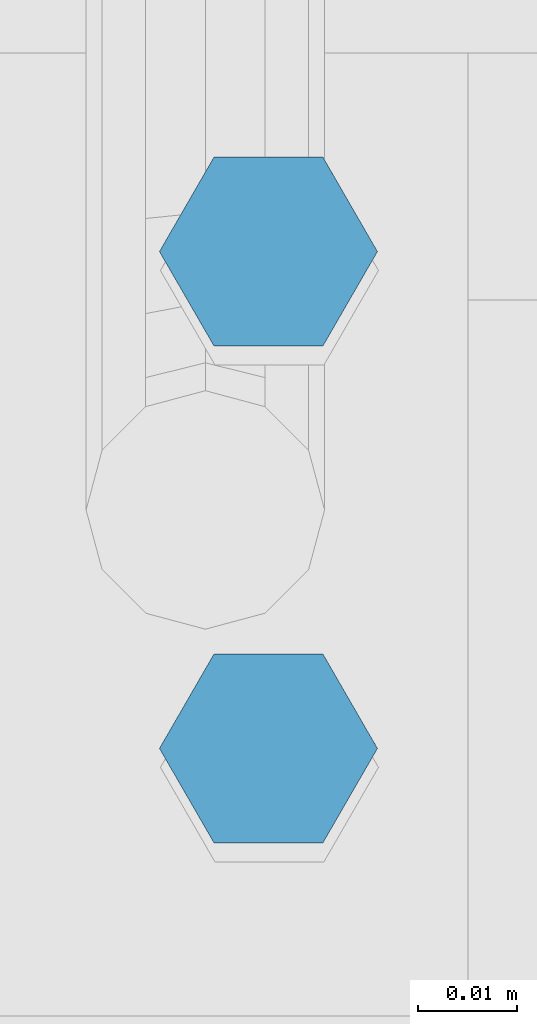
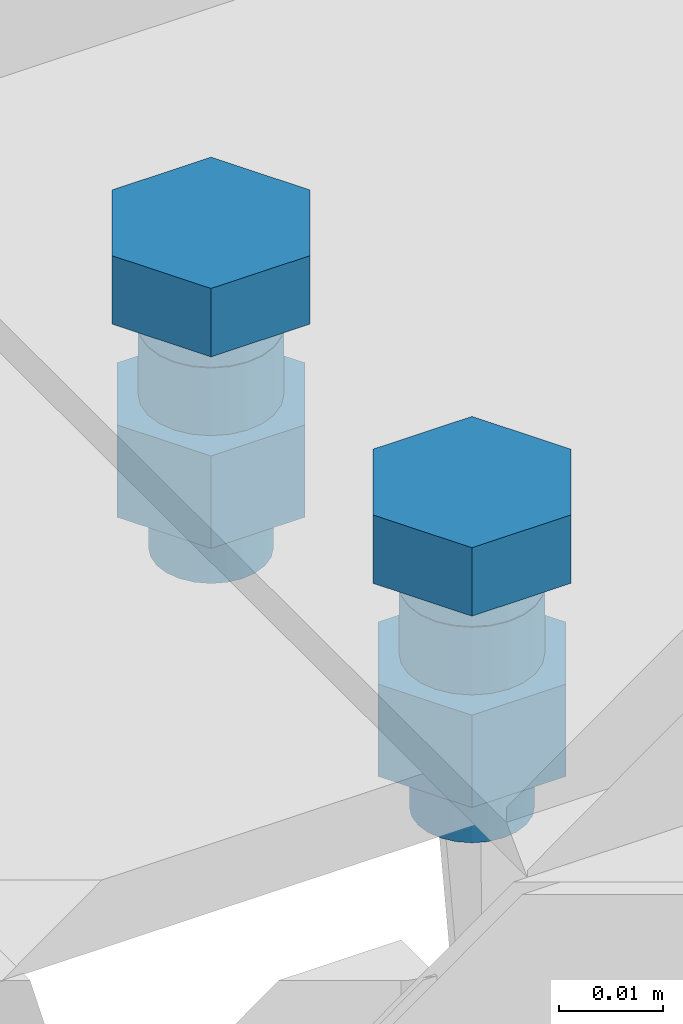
# One storey, part 18 of 21: 1 mechanical fastener.
"""IFC2X3 building model written with IfcOpenShell, lengths in millimetres."""

from ifc_helpers import new_model, si_unit, frame, origin_with_axes, place, context, project, spatial, faceted_brep, element, save


model = new_model("IFC2X3")

# Units and contexts
model_context_1 = context("Model", 3, precision=1e-05, world=origin_with_axes(), identifier="Body")
model_context_2 = context("Model", 3, precision=1e-05, world=origin_with_axes())
ifc_project = project(units=[si_unit("LENGTHUNIT", "METRE", prefix="MILLI"), si_unit("AREAUNIT", "SQUARE_METRE"), si_unit("VOLUMEUNIT", "CUBIC_METRE"), si_unit("MASSUNIT", "GRAM", prefix="KILO"), si_unit("TIMEUNIT", "SECOND"), si_unit("PLANEANGLEUNIT", "RADIAN"), si_unit("SOLIDANGLEUNIT", "STERADIAN"), si_unit("THERMODYNAMICTEMPERATUREUNIT", "DEGREE_CELSIUS"), si_unit("LUMINOUSINTENSITYUNIT", "LUMEN")], contexts=[model_context_1, model_context_2])

# Site, building, storey
site_placement = place(None, origin_with_axes())
site = spatial("IfcSite", under=ifc_project, at=site_placement, Name="Undefined", CompositionType="ELEMENT")
building_placement = place(site_placement, origin_with_axes())
building = spatial("IfcBuilding", under=site, at=building_placement, Name="Undefined", CompositionType="ELEMENT")
storey_placement = place(building_placement, origin_with_axes())
storey = spatial("IfcBuildingStorey", under=building, at=storey_placement, Name="Undefined", CompositionType="ELEMENT")

# Mechanical fastener
mechanical_fastener_placement = place(storey_placement, frame((66.35, -154.9998, 6524.0), z_axis=(6.323831e-15, -1.0, -5.4600005e-05), x_axis=(-1.0, 0.0, 4.8148249e-35)))
element("IfcMechanicalFastener", 1, at=mechanical_fastener_placement, inside=storey, Name="Bolt assembly", NominalDiameter=12.0, NominalLength=30.0, context=model_context_1, shape_type="Brep", body=[
    faceted_brep([(10.969655, -18.000568, 25.0), (5.4848276, -18.000568, 34.5), (-5.4848276, -18.000568, 34.5), (-10.969655, -18.000568, 25.0), (-5.4848276, -18.000568, 15.5), (5.4848276, -18.000568, 15.5), (5.4848276, -10.000568, 15.5), (-5.4848276, -10.000568, 15.5), (-10.969655, -10.000568, 25.0), (-5.4848276, -10.000568, 34.5), (5.4848276, -10.000568, 34.5), (10.969655, -10.000568, 25.0), (6.0, -10.000568, 25.0), (5.795555, -10.000568, 26.552914), (5.1961524, -10.000568, 28.0), (4.2426407, -10.000568, 29.242641), (3.0, -10.000568, 30.196152), (1.5529143, -10.000568, 30.795555), (-6.2180159e-13, -10.000568, 31.0), (-1.5529143, -10.000568, 30.795555), (-3.0, -10.000568, 30.196152), (-4.2426407, -10.000568, 29.242641), (-5.1961524, -10.000568, 28.0), (-5.795555, -10.000568, 26.552914), (-6.0, -10.000568, 25.0), (-5.795555, -10.000568, 23.447086), (-5.1961524, -10.000568, 22.0), (-4.2426407, -10.000568, 20.757359), (-3.0, -10.000568, 19.803848), (-1.5529143, -10.000568, 19.204445), (1.8587434e-12, -10.000568, 19.0), (1.5529143, -10.000568, 19.204445), (3.0, -10.000568, 19.803848), (4.2426407, -10.000568, 20.757359), (5.1961524, -10.000568, 22.0), (5.795555, -10.000568, 23.447086), (5.795555, 19.999432, 23.447086), (5.1961524, 19.999432, 22.0), (4.2426407, 19.999432, 20.757359), (3.0, 19.999432, 19.803848), (1.5529143, 19.999432, 19.204445), (1.8587434e-12, 19.999432, 19.0), (-1.5529143, 19.999432, 19.204445), (-3.0, 19.999432, 19.803848), (-4.2426407, 19.999432, 20.757359), (-5.1961524, 19.999432, 22.0), (-5.795555, 19.999432, 23.447086), (-6.0, 19.999432, 25.0), (-5.795555, 19.999432, 26.552914), (-5.1961524, 19.999432, 28.0), (-4.2426407, 19.999432, 29.242641), (-3.0, 19.999432, 30.196152), (-1.5529143, 19.999432, 30.795555), (-6.2180159e-13, 19.999432, 31.0), (1.5529143, 19.999432, 30.795555), (3.0, 19.999432, 30.196152), (4.2426407, 19.999432, 29.242641), (5.1961524, 19.999432, 28.0), (5.795555, 19.999432, 26.552914), (6.0, 19.999432, 25.0), (10.392305, 1.9994325, 25.0), (5.1961524, 1.9994325, 34.0), (-5.1961524, 1.9994325, 34.0), (-10.392305, 1.9994325, 25.0), (-5.1961524, 1.9994325, 16.0), (5.1961524, 1.9994325, 16.0), (5.1961524, 12.799433, 16.0), (-5.1961524, 12.799433, 16.0), (-10.392305, 12.799433, 25.0), (-5.1961524, 12.799433, 34.0), (5.1961524, 12.799433, 34.0), (10.392305, 12.799433, 25.0), (10.969655, -18.000568, -25.0), (5.4848276, -18.000568, -15.5), (-5.4848276, -18.000568, -15.5), (-10.969655, -18.000568, -25.0), (-5.4848276, -18.000568, -34.5), (5.4848276, -18.000568, -34.5), (5.4848276, -10.000568, -34.5), (-5.4848276, -10.000568, -34.5), (-10.969655, -10.000568, -25.0), (-5.4848276, -10.000568, -15.5), (5.4848276, -10.000568, -15.5), (10.969655, -10.000568, -25.0), (6.0, -10.000568, -25.0), (5.795555, -10.000568, -23.447086), (5.1961524, -10.000568, -22.0), (4.2426407, -10.000568, -20.757359), (3.0, -10.000568, -19.803848), (1.5529143, -10.000568, -19.204445), (-6.2180159e-13, -10.000568, -19.0), (-1.5529143, -10.000568, -19.204445), (-3.0, -10.000568, -19.803848), (-4.2426407, -10.000568, -20.757359), (-5.1961524, -10.000568, -22.0), (-5.795555, -10.000568, -23.447086), (-6.0, -10.000568, -25.0), (-5.795555, -10.000568, -26.552914), (-5.1961524, -10.000568, -28.0), (-4.2426407, -10.000568, -29.242641), (-3.0, -10.000568, -30.196152), (-1.5529143, -10.000568, -30.795555), (1.8587434e-12, -10.000568, -31.0), (1.5529143, -10.000568, -30.795555), (3.0, -10.000568, -30.196152), (4.2426407, -10.000568, -29.242641), (5.1961524, -10.000568, -28.0), (5.795555, -10.000568, -26.552914), (5.795555, 19.999432, -26.552914), (5.1961524, 19.999432, -28.0), (4.2426407, 19.999432, -29.242641), (3.0, 19.999432, -30.196152), (1.5529143, 19.999432, -30.795555), (1.8587434e-12, 19.999432, -31.0), (-1.5529143, 19.999432, -30.795555), (-3.0, 19.999432, -30.196152), (-4.2426407, 19.999432, -29.242641), (-5.1961524, 19.999432, -28.0), (-5.795555, 19.999432, -26.552914), (-6.0, 19.999432, -25.0), (-5.795555, 19.999432, -23.447086), (-5.1961524, 19.999432, -22.0), (-4.2426407, 19.999432, -20.757359), (-3.0, 19.999432, -19.803848), (-1.5529143, 19.999432, -19.204445), (-6.2180159e-13, 19.999432, -19.0), (1.5529143, 19.999432, -19.204445), (3.0, 19.999432, -19.803848), (4.2426407, 19.999432, -20.757359), (5.1961524, 19.999432, -22.0), (5.795555, 19.999432, -23.447086), (6.0, 19.999432, -25.0), (10.392305, 1.9994325, -25.0), (5.1961524, 1.9994325, -16.0), (-5.1961524, 1.9994325, -16.0), (-10.392305, 1.9994325, -25.0), (-5.1961524, 1.9994325, -34.0), (5.1961524, 1.9994325, -34.0), (5.1961524, 12.799433, -34.0), (-5.1961524, 12.799433, -34.0), (-10.392305, 12.799433, -25.0), (-5.1961524, 12.799433, -16.0), (5.1961524, 12.799433, -16.0), (10.392305, 12.799433, -25.0)], [[[0, 1, 2, 3, 4, 5]], [[6, 7, 8, 9, 10, 11]], [[0, 11, 10, 1]], [[1, 10, 9, 2]], [[2, 9, 8, 3]], [[3, 8, 7, 4]], [[4, 7, 6, 5]], [[5, 6, 11, 0]], [[12, 13, 14, 15, 16, 17, 18, 19, 20, 21, 22, 23, 24, 25, 26, 27, 28, 29, 30, 31, 32, 33, 34, 35]], [[36, 37, 38, 39, 40, 41, 42, 43, 44, 45, 46, 47, 48, 49, 50, 51, 52, 53, 54, 55, 56, 57, 58, 59]], [[12, 59, 58, 13]], [[13, 58, 57, 14]], [[14, 57, 56, 15]], [[15, 56, 55, 16]], [[16, 55, 54, 17]], [[17, 54, 53, 18]], [[18, 53, 52, 19]], [[19, 52, 51, 20]], [[20, 51, 50, 21]], [[21, 50, 49, 22]], [[22, 49, 48, 23]], [[23, 48, 47, 24]], [[24, 47, 46, 25]], [[25, 46, 45, 26]], [[26, 45, 44, 27]], [[27, 44, 43, 28]], [[28, 43, 42, 29]], [[29, 42, 41, 30]], [[30, 41, 40, 31]], [[31, 40, 39, 32]], [[32, 39, 38, 33]], [[33, 38, 37, 34]], [[34, 37, 36, 35]], [[35, 36, 59, 12]], [[60, 61, 62, 63, 64, 65]], [[66, 67, 68, 69, 70, 71]], [[60, 71, 70, 61]], [[61, 70, 69, 62]], [[62, 69, 68, 63]], [[63, 68, 67, 64]], [[64, 67, 66, 65]], [[65, 66, 71, 60]], [[72, 73, 74, 75, 76, 77]], [[78, 79, 80, 81, 82, 83]], [[72, 83, 82, 73]], [[73, 82, 81, 74]], [[74, 81, 80, 75]], [[75, 80, 79, 76]], [[76, 79, 78, 77]], [[77, 78, 83, 72]], [[84, 85, 86, 87, 88, 89, 90, 91, 92, 93, 94, 95, 96, 97, 98, 99, 100, 101, 102, 103, 104, 105, 106, 107]], [[108, 109, 110, 111, 112, 113, 114, 115, 116, 117, 118, 119, 120, 121, 122, 123, 124, 125, 126, 127, 128, 129, 130, 131]], [[84, 131, 130, 85]], [[85, 130, 129, 86]], [[86, 129, 128, 87]], [[87, 128, 127, 88]], [[88, 127, 126, 89]], [[89, 126, 125, 90]], [[90, 125, 124, 91]], [[91, 124, 123, 92]], [[92, 123, 122, 93]], [[93, 122, 121, 94]], [[94, 121, 120, 95]], [[95, 120, 119, 96]], [[96, 119, 118, 97]], [[97, 118, 117, 98]], [[98, 117, 116, 99]], [[99, 116, 115, 100]], [[100, 115, 114, 101]], [[101, 114, 113, 102]], [[102, 113, 112, 103]], [[103, 112, 111, 104]], [[104, 111, 110, 105]], [[105, 110, 109, 106]], [[106, 109, 108, 107]], [[107, 108, 131, 84]], [[132, 133, 134, 135, 136, 137]], [[138, 139, 140, 141, 142, 143]], [[132, 143, 142, 133]], [[133, 142, 141, 134]], [[134, 141, 140, 135]], [[135, 140, 139, 136]], [[136, 139, 138, 137]], [[137, 138, 143, 132]]]),
    faceted_brep([(7.0, -5.9005675, 25.0), (6.7614808, -5.9005675, 26.811733), (6.0621778, -5.9005675, 28.5), (4.9497475, -5.9005675, 29.949747), (3.5, -5.9005675, 31.062178), (1.8117333, -5.9005675, 31.761481), (-7.2543519e-13, -5.9005675, 32.0), (-1.8117333, -5.9005675, 31.761481), (-3.5, -5.9005675, 31.062178), (-4.9497475, -5.9005675, 29.949747), (-6.0621778, -5.9005675, 28.5), (-6.7614808, -5.9005675, 26.811733), (-7.0, -5.9005675, 25.0), (-6.7614808, -5.9005675, 23.188267), (-6.0621778, -5.9005675, 21.5), (-4.9497475, -5.9005675, 20.050253), (-3.5, -5.9005675, 18.937822), (-1.8117333, -5.9005675, 18.238519), (2.168534e-12, -5.9005675, 18.0), (1.8117333, -5.9005675, 18.238519), (3.5, -5.9005675, 18.937822), (4.9497475, -5.9005675, 20.050253), (6.0621778, -5.9005675, 21.5), (6.7614808, -5.9005675, 23.188267), (6.7614808, 2.0994325, 23.188267), (6.0621778, 2.0994325, 21.5), (4.9497475, 2.0994325, 20.050253), (3.5, 2.0994325, 18.937822), (1.8117333, 2.0994325, 18.238519), (2.168534e-12, 2.0994325, 18.0), (-1.8117333, 2.0994325, 18.238519), (-3.5, 2.0994325, 18.937822), (-4.9497475, 2.0994325, 20.050253), (-6.0621778, 2.0994325, 21.5), (-6.7614808, 2.0994325, 23.188267), (-7.0, 2.0994325, 25.0), (-6.7614808, 2.0994325, 26.811733), (-6.0621778, 2.0994325, 28.5), (-4.9497475, 2.0994325, 29.949747), (-3.5, 2.0994325, 31.062178), (-1.8117333, 2.0994325, 31.761481), (-7.2543519e-13, 2.0994325, 32.0), (1.8117333, 2.0994325, 31.761481), (3.5, 2.0994325, 31.062178), (4.9497475, 2.0994325, 29.949747), (6.0621778, 2.0994325, 28.5), (6.7614808, 2.0994325, 26.811733), (7.0, 2.0994325, 25.0), (7.0, -10.100568, 25.0), (6.7614808, -10.100568, 26.811733), (6.0621778, -10.100568, 28.5), (4.9497475, -10.100568, 29.949747), (3.5, -10.100568, 31.062178), (1.8117333, -10.100568, 31.761481), (-7.2543519e-13, -10.100568, 32.0), (-1.8117333, -10.100568, 31.761481), (-3.5, -10.100568, 31.062178), (-4.9497475, -10.100568, 29.949747), (-6.0621778, -10.100568, 28.5), (-6.7614808, -10.100568, 26.811733), (-7.0, -10.100568, 25.0), (-6.7614808, -10.100568, 23.188267), (-6.0621778, -10.100568, 21.5), (-4.9497475, -10.100568, 20.050253), (-3.5, -10.100568, 18.937822), (-1.8117333, -10.100568, 18.238519), (2.168534e-12, -10.100568, 18.0), (1.8117333, -10.100568, 18.238519), (3.5, -10.100568, 18.937822), (4.9497475, -10.100568, 20.050253), (6.0621778, -10.100568, 21.5), (6.7614808, -10.100568, 23.188267), (6.7614808, -6.0005675, 23.188267), (6.0621778, -6.0005675, 21.5), (4.9497475, -6.0005675, 20.050253), (3.5, -6.0005675, 18.937822), (1.8117333, -6.0005675, 18.238519), (2.168534e-12, -6.0005675, 18.0), (-1.8117333, -6.0005675, 18.238519), (-3.5, -6.0005675, 18.937822), (-4.9497475, -6.0005675, 20.050253), (-6.0621778, -6.0005675, 21.5), (-6.7614808, -6.0005675, 23.188267), (-7.0, -6.0005675, 25.0), (-6.7614808, -6.0005675, 26.811733), (-6.0621778, -6.0005675, 28.5), (-4.9497475, -6.0005675, 29.949747), (-3.5, -6.0005675, 31.062178), (-1.8117333, -6.0005675, 31.761481), (-7.2543519e-13, -6.0005675, 32.0), (1.8117333, -6.0005675, 31.761481), (3.5, -6.0005675, 31.062178), (4.9497475, -6.0005675, 29.949747), (6.0621778, -6.0005675, 28.5), (6.7614808, -6.0005675, 26.811733), (7.0, -6.0005675, 25.0), (7.0, -5.9005675, -25.0), (6.7614808, -5.9005675, -23.188267), (6.0621778, -5.9005675, -21.5), (4.9497475, -5.9005675, -20.050253), (3.5, -5.9005675, -18.937822), (1.8117333, -5.9005675, -18.238519), (-7.2543519e-13, -5.9005675, -18.0), (-1.8117333, -5.9005675, -18.238519), (-3.5, -5.9005675, -18.937822), (-4.9497475, -5.9005675, -20.050253), (-6.0621778, -5.9005675, -21.5), (-6.7614808, -5.9005675, -23.188267), (-7.0, -5.9005675, -25.0), (-6.7614808, -5.9005675, -26.811733), (-6.0621778, -5.9005675, -28.5), (-4.9497475, -5.9005675, -29.949747), (-3.5, -5.9005675, -31.062178), (-1.8117333, -5.9005675, -31.761481), (2.168534e-12, -5.9005675, -32.0), (1.8117333, -5.9005675, -31.761481), (3.5, -5.9005675, -31.062178), (4.9497475, -5.9005675, -29.949747), (6.0621778, -5.9005675, -28.5), (6.7614808, -5.9005675, -26.811733), (6.7614808, 2.0994325, -26.811733), (6.0621778, 2.0994325, -28.5), (4.9497475, 2.0994325, -29.949747), (3.5, 2.0994325, -31.062178), (1.8117333, 2.0994325, -31.761481), (2.168534e-12, 2.0994325, -32.0), (-1.8117333, 2.0994325, -31.761481), (-3.5, 2.0994325, -31.062178), (-4.9497475, 2.0994325, -29.949747), (-6.0621778, 2.0994325, -28.5), (-6.7614808, 2.0994325, -26.811733), (-7.0, 2.0994325, -25.0), (-6.7614808, 2.0994325, -23.188267), (-6.0621778, 2.0994325, -21.5), (-4.9497475, 2.0994325, -20.050253), (-3.5, 2.0994325, -18.937822), (-1.8117333, 2.0994325, -18.238519), (-7.2543519e-13, 2.0994325, -18.0), (1.8117333, 2.0994325, -18.238519), (3.5, 2.0994325, -18.937822), (4.9497475, 2.0994325, -20.050253), (6.0621778, 2.0994325, -21.5), (6.7614808, 2.0994325, -23.188267), (7.0, 2.0994325, -25.0), (7.0, -10.100568, -25.0), (6.7614808, -10.100568, -23.188267), (6.0621778, -10.100568, -21.5), (4.9497475, -10.100568, -20.050253), (3.5, -10.100568, -18.937822), (1.8117333, -10.100568, -18.238519), (-7.2543519e-13, -10.100568, -18.0), (-1.8117333, -10.100568, -18.238519), (-3.5, -10.100568, -18.937822), (-4.9497475, -10.100568, -20.050253), (-6.0621778, -10.100568, -21.5), (-6.7614808, -10.100568, -23.188267), (-7.0, -10.100568, -25.0), (-6.7614808, -10.100568, -26.811733), (-6.0621778, -10.100568, -28.5), (-4.9497475, -10.100568, -29.949747), (-3.5, -10.100568, -31.062178), (-1.8117333, -10.100568, -31.761481), (2.168534e-12, -10.100568, -32.0), (1.8117333, -10.100568, -31.761481), (3.5, -10.100568, -31.062178), (4.9497475, -10.100568, -29.949747), (6.0621778, -10.100568, -28.5), (6.7614808, -10.100568, -26.811733), (6.7614808, -6.0005675, -26.811733), (6.0621778, -6.0005675, -28.5), (4.9497475, -6.0005675, -29.949747), (3.5, -6.0005675, -31.062178), (1.8117333, -6.0005675, -31.761481), (2.168534e-12, -6.0005675, -32.0), (-1.8117333, -6.0005675, -31.761481), (-3.5, -6.0005675, -31.062178), (-4.9497475, -6.0005675, -29.949747), (-6.0621778, -6.0005675, -28.5), (-6.7614808, -6.0005675, -26.811733), (-7.0, -6.0005675, -25.0), (-6.7614808, -6.0005675, -23.188267), (-6.0621778, -6.0005675, -21.5), (-4.9497475, -6.0005675, -20.050253), (-3.5, -6.0005675, -18.937822), (-1.8117333, -6.0005675, -18.238519), (-7.2543519e-13, -6.0005675, -18.0), (1.8117333, -6.0005675, -18.238519), (3.5, -6.0005675, -18.937822), (4.9497475, -6.0005675, -20.050253), (6.0621778, -6.0005675, -21.5), (6.7614808, -6.0005675, -23.188267), (7.0, -6.0005675, -25.0)], [[[0, 1, 2, 3, 4, 5, 6, 7, 8, 9, 10, 11, 12, 13, 14, 15, 16, 17, 18, 19, 20, 21, 22, 23]], [[24, 25, 26, 27, 28, 29, 30, 31, 32, 33, 34, 35, 36, 37, 38, 39, 40, 41, 42, 43, 44, 45, 46, 47]], [[0, 47, 46, 1]], [[1, 46, 45, 2]], [[2, 45, 44, 3]], [[3, 44, 43, 4]], [[4, 43, 42, 5]], [[5, 42, 41, 6]], [[6, 41, 40, 7]], [[7, 40, 39, 8]], [[8, 39, 38, 9]], [[9, 38, 37, 10]], [[10, 37, 36, 11]], [[11, 36, 35, 12]], [[12, 35, 34, 13]], [[13, 34, 33, 14]], [[14, 33, 32, 15]], [[15, 32, 31, 16]], [[16, 31, 30, 17]], [[17, 30, 29, 18]], [[18, 29, 28, 19]], [[19, 28, 27, 20]], [[20, 27, 26, 21]], [[21, 26, 25, 22]], [[22, 25, 24, 23]], [[23, 24, 47, 0]], [[48, 49, 50, 51, 52, 53, 54, 55, 56, 57, 58, 59, 60, 61, 62, 63, 64, 65, 66, 67, 68, 69, 70, 71]], [[72, 73, 74, 75, 76, 77, 78, 79, 80, 81, 82, 83, 84, 85, 86, 87, 88, 89, 90, 91, 92, 93, 94, 95]], [[48, 95, 94, 49]], [[49, 94, 93, 50]], [[50, 93, 92, 51]], [[51, 92, 91, 52]], [[52, 91, 90, 53]], [[53, 90, 89, 54]], [[54, 89, 88, 55]], [[55, 88, 87, 56]], [[56, 87, 86, 57]], [[57, 86, 85, 58]], [[58, 85, 84, 59]], [[59, 84, 83, 60]], [[60, 83, 82, 61]], [[61, 82, 81, 62]], [[62, 81, 80, 63]], [[63, 80, 79, 64]], [[64, 79, 78, 65]], [[65, 78, 77, 66]], [[66, 77, 76, 67]], [[67, 76, 75, 68]], [[68, 75, 74, 69]], [[69, 74, 73, 70]], [[70, 73, 72, 71]], [[71, 72, 95, 48]], [[96, 97, 98, 99, 100, 101, 102, 103, 104, 105, 106, 107, 108, 109, 110, 111, 112, 113, 114, 115, 116, 117, 118, 119]], [[120, 121, 122, 123, 124, 125, 126, 127, 128, 129, 130, 131, 132, 133, 134, 135, 136, 137, 138, 139, 140, 141, 142, 143]], [[96, 143, 142, 97]], [[97, 142, 141, 98]], [[98, 141, 140, 99]], [[99, 140, 139, 100]], [[100, 139, 138, 101]], [[101, 138, 137, 102]], [[102, 137, 136, 103]], [[103, 136, 135, 104]], [[104, 135, 134, 105]], [[105, 134, 133, 106]], [[106, 133, 132, 107]], [[107, 132, 131, 108]], [[108, 131, 130, 109]], [[109, 130, 129, 110]], [[110, 129, 128, 111]], [[111, 128, 127, 112]], [[112, 127, 126, 113]], [[113, 126, 125, 114]], [[114, 125, 124, 115]], [[115, 124, 123, 116]], [[116, 123, 122, 117]], [[117, 122, 121, 118]], [[118, 121, 120, 119]], [[119, 120, 143, 96]], [[144, 145, 146, 147, 148, 149, 150, 151, 152, 153, 154, 155, 156, 157, 158, 159, 160, 161, 162, 163, 164, 165, 166, 167]], [[168, 169, 170, 171, 172, 173, 174, 175, 176, 177, 178, 179, 180, 181, 182, 183, 184, 185, 186, 187, 188, 189, 190, 191]], [[144, 191, 190, 145]], [[145, 190, 189, 146]], [[146, 189, 188, 147]], [[147, 188, 187, 148]], [[148, 187, 186, 149]], [[149, 186, 185, 150]], [[150, 185, 184, 151]], [[151, 184, 183, 152]], [[152, 183, 182, 153]], [[153, 182, 181, 154]], [[154, 181, 180, 155]], [[155, 180, 179, 156]], [[156, 179, 178, 157]], [[157, 178, 177, 158]], [[158, 177, 176, 159]], [[159, 176, 175, 160]], [[160, 175, 174, 161]], [[161, 174, 173, 162]], [[162, 173, 172, 163]], [[163, 172, 171, 164]], [[164, 171, 170, 165]], [[165, 170, 169, 166]], [[166, 169, 168, 167]], [[167, 168, 191, 144]]]),
])

save(model, "model.ifc")
